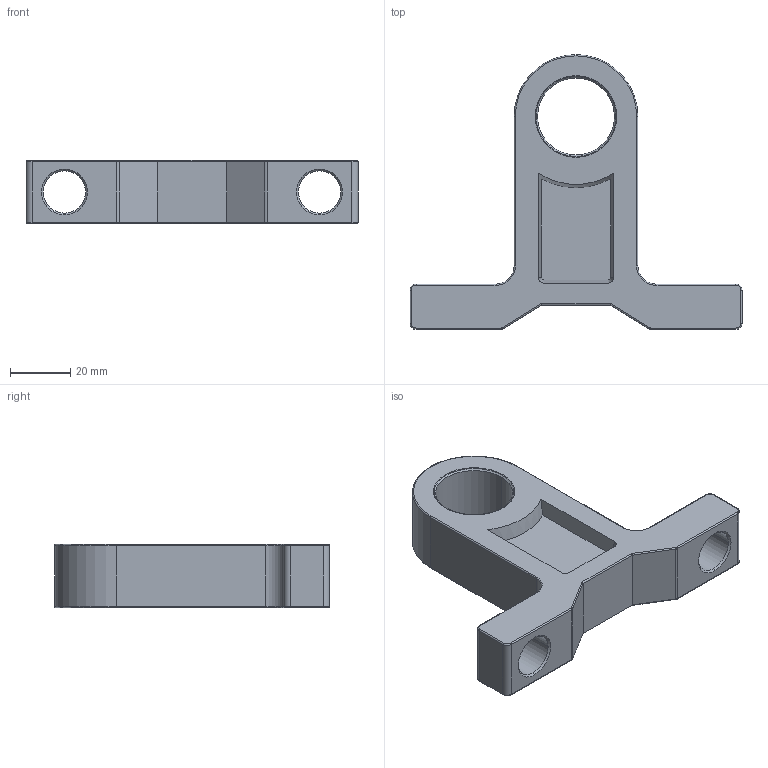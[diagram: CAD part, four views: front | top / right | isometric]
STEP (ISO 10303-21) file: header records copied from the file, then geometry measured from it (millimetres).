
FILE_DESCRIPTION (( 'STEP AP203' ), '1' );
FILE_NAME ('TC-M-80.STEP', '2015-02-24T13:13:54', ( 'user' ), ( '' ), 'SwSTEP 2.0', 'SolidWorks 2013', '' );
FILE_SCHEMA (( 'CONFIG_CONTROL_DESIGN' ));
Length unit declared in the file: millimetre
Products named in the file (1): TC-M-80
Bounding box: 110 x 91 x 21 mm (x, y, z)
Volume: 67231.4 mm3; surface area: 18676.5 mm2
Topology: 1 solids, 1 shells, 98 faces, 234 edges, 140 vertices
Faces by surface type: cylinder 37, torus 22, plane 21, cone 18
Entity records: 2933 total; most frequent: DIRECTION 548, CARTESIAN_POINT 497, ORIENTED_EDGE 468, EDGE_CURVE 234, AXIS2_PLACEMENT_3D 223, VERTEX_POINT 140, CIRCLE 124, EDGE_LOOP 106
